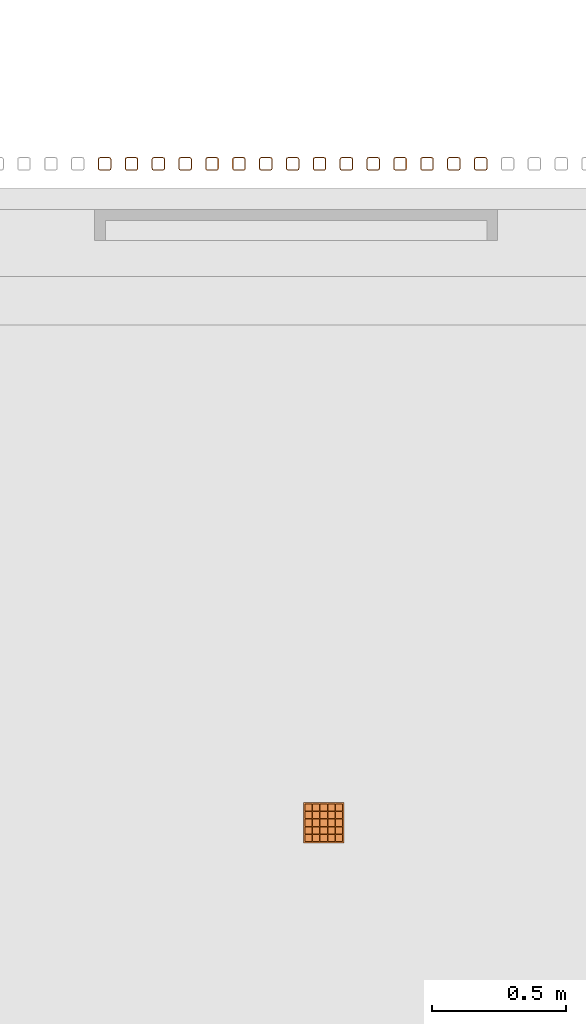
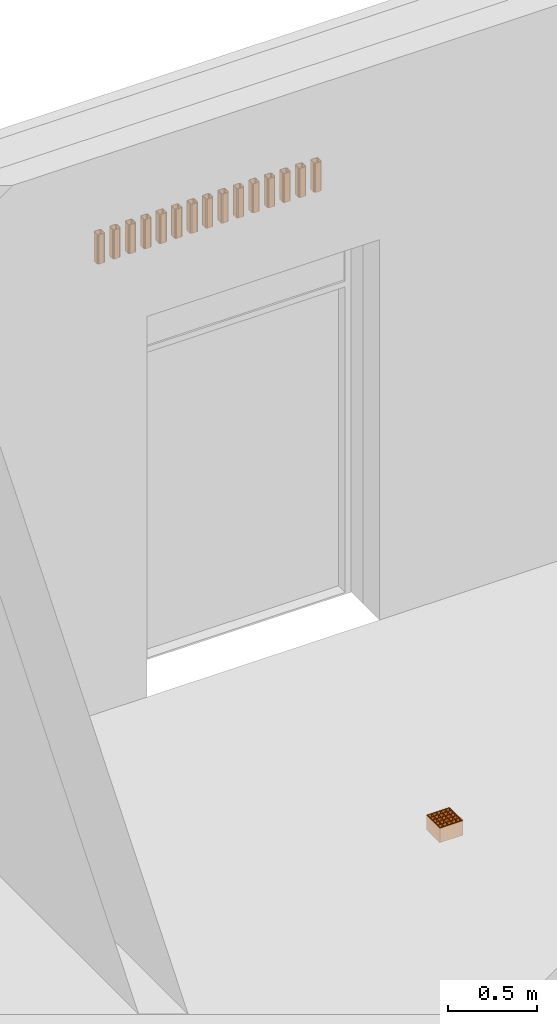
# One storey, part 102 of 112: 16 proxies.
"""IFC2X3 building model written with IfcOpenShell, lengths in millimetres."""

import ifcopenshell
import ifcopenshell.guid

model = None  # the IFC model being written
_history = None  # IfcOwnerHistory: only IFC2X3 demands one
_inside = {}  # id of a spatial element -> (the spatial element, [elements in it])
_under = {}  # id of a project, library or spatial element -> (it, [spatial elements below it])
_declared = {}  # id of a project -> (the project, [libraries it declares])
_typed = {}  # id of a type object -> (the type object, [elements of that type])
_made_of = {}  # id of a material, layer set ... -> (it, [elements and type objects made of it])


def new_model(schema):
    """Start an empty IFC model of exactly this schema.

    Asked for "IFC4X3", IfcOpenShell would pick the latest addendum, in which some entities
    have other attributes; the version numbers below select the first issue.
    IFC2X3 requires an IfcOwnerHistory on every rooted entity: one is made here for all.
    """
    global model, _history
    if schema == "IFC4X3":
        model = ifcopenshell.file(schema_version=(4, 3, 0, 0))
    else:
        model = ifcopenshell.file(schema=schema)
    _inside.clear()
    _under.clear()
    _declared.clear()
    _typed.clear()
    _made_of.clear()
    _history = None
    if model.schema == "IFC2X3":
        org = make("IfcOrganization", Name="unknown")
        user = make(
            "IfcPersonAndOrganization",
            ThePerson=make("IfcPerson", FamilyName="unknown"),
            TheOrganization=org,
        )
        app = make(
            "IfcApplication",
            ApplicationDeveloper=org,
            Version="unknown",
            ApplicationFullName="unknown",
            ApplicationIdentifier="unknown",
        )
        _history = make(
            "IfcOwnerHistory",
            OwningUser=user,
            OwningApplication=app,
            ChangeAction="ADDED",
            CreationDate=0,
        )
    return model


def make(cls, **values):
    """One entity of the class cls with the attributes given. An attribute that is None is left unset."""
    return model.create_entity(
        cls, **{name: value for name, value in values.items() if value is not None}
    )


def entity(cls, *values):
    """Any entity or typed value of the class cls, its attributes in the order of the schema. None: left unset."""
    e = model.create_entity(cls)
    for i, value in enumerate(values):
        if value is not None:
            e[i] = value
    return e


def rooted(cls, **values):
    """An entity with a GlobalId (a new one), such as an element, a storey or a relation."""
    return make(cls, GlobalId=ifcopenshell.guid.new(), OwnerHistory=_history, **values)


def si_unit(unit_type, name, prefix=None):
    """IfcSIUnit, for example si_unit("LENGTHUNIT", "METRE", prefix="MILLI")."""
    return make("IfcSIUnit", UnitType=unit_type, Prefix=prefix, Name=name)


def converted_unit(unit_type, name, factor, base, dimensions=None, offset=None):
    """IfcConversionBasedUnit, such as the inch: factor (a typed value) times the base unit."""
    return make(
        "IfcConversionBasedUnit"
        if offset is None
        else "IfcConversionBasedUnitWithOffset",
        ConversionOffset=offset,
        Dimensions=None
        if dimensions is None
        else entity("IfcDimensionalExponents", *dimensions),
        UnitType=unit_type,
        Name=name,
        ConversionFactor=make(
            "IfcMeasureWithUnit", ValueComponent=factor, UnitComponent=base
        ),
    )


def derived_unit(unit_type, elements):
    """IfcDerivedUnit: a product of units, each with its exponent."""
    return make(
        "IfcDerivedUnit",
        Elements=[
            make("IfcDerivedUnitElement", Unit=unit, Exponent=power)
            for unit, power in elements
        ],
        UnitType=unit_type,
    )


def money_unit(currency):
    """IfcMonetaryUnit."""
    return make("IfcMonetaryUnit", Currency=currency)


def assignment(units):
    """IfcUnitAssignment: the units of a project."""
    return None if units is None else make("IfcUnitAssignment", Units=units)


def point(xyz):
    """IfcCartesianPoint."""
    return None if xyz is None else make("IfcCartesianPoint", Coordinates=xyz)


def direction(xyz):
    """IfcDirection."""
    return None if xyz is None else make("IfcDirection", DirectionRatios=xyz)


def frame(location, z_axis=None, x_axis=None):
    """IfcAxis2Placement3D, a coordinate frame: its origin and axes. An axis left out is left unset."""
    return make(
        "IfcAxis2Placement3D",
        Location=point(location),
        Axis=direction(z_axis),
        RefDirection=direction(x_axis),
    )


def origin_with_axes():
    """The frame at (0, 0, 0) with the z axis (0, 0, 1) and the x axis (1, 0, 0) written out."""
    return frame((0.0, 0.0, 0.0), z_axis=(0.0, 0.0, 1.0), x_axis=(1.0, 0.0, 0.0))


def place(relative_to, where):
    """IfcLocalPlacement: puts the frame where relative to a parent placement (None: the world)."""
    return make(
        "IfcLocalPlacement", PlacementRelTo=relative_to, RelativePlacement=where
    )


def context(
    kind, dimensions, precision=None, world=None, true_north=None, identifier=None
):
    """IfcGeometricRepresentationContext, for example the 3D "Model" context."""
    return make(
        "IfcGeometricRepresentationContext",
        ContextIdentifier=identifier,
        ContextType=kind,
        CoordinateSpaceDimension=dimensions,
        Precision=precision,
        WorldCoordinateSystem=world,
        TrueNorth=true_north,
    )


def subcontext(parent, identifier, kind, view, scale=None):
    """IfcGeometricRepresentationSubContext, for example "Body" below "Model"."""
    return make(
        "IfcGeometricRepresentationSubContext",
        ContextIdentifier=identifier,
        ContextType=kind,
        ParentContext=parent,
        TargetScale=scale,
        TargetView=view,
    )


def project(units=None, contexts=None):
    """IfcProject with its units and contexts."""
    return rooted(
        "IfcProject",
        Name="project",
        RepresentationContexts=contexts,
        UnitsInContext=assignment(units),
    )


def spatial(cls, under=None, at=None, **own):
    """A site, building, storey or space (cls), placed at a placement, below another one or the project."""
    s = rooted(cls, ObjectPlacement=at, **own)
    if under is not None:
        _under.setdefault(under.id(), (under, []))[1].append(s)
    return s


def faces_of(points, faces, orient=None, outer=None):
    """IfcFace entities. A face is a list of loops; a loop is a list of indices into points, from 0.

    orient and outer hold one flag for each loop. By default every Orientation is true, the
    first loop of a face is its IfcFaceOuterBound and the others are IfcFaceBound.
    """
    made = []
    for i, loops in enumerate(faces):
        bounds = []
        for j, loop in enumerate(loops):
            is_outer = j == 0 if outer is None else outer[i][j]
            bounds.append(
                make(
                    "IfcFaceOuterBound" if is_outer else "IfcFaceBound",
                    Bound=make("IfcPolyLoop", Polygon=[points[k] for k in loop]),
                    Orientation=True if orient is None else orient[i][j],
                )
            )
        made.append(make("IfcFace", Bounds=bounds))
    return made


def faceted_brep(points, faces, orient=None, outer=None, voids=None):
    """IfcFacetedBrep: a solid bounded by flat faces; with voids (closed shells), ...WithVoids."""
    shared = [point(p) for p in points]
    hull = make("IfcClosedShell", CfsFaces=faces_of(shared, faces, orient, outer))
    if voids is None:
        return make("IfcFacetedBrep", Outer=hull)
    return make(
        "IfcFacetedBrepWithVoids",
        Outer=hull,
        Voids=[
            make(cls, CfsFaces=faces_of(shared, fs, o, b)) for cls, fs, o, b in voids
        ],
    )


def shape(context_of_items, identifier, shape_type, items):
    """IfcShapeRepresentation: the items that make up one representation, for example the "Body"."""
    return make(
        "IfcShapeRepresentation",
        ContextOfItems=context_of_items,
        RepresentationIdentifier=identifier,
        RepresentationType=shape_type,
        Items=items,
    )


def source(mapping_origin, context_of_items, identifier, shape_type, items):
    """IfcRepresentationMap: a shape defined once, which mapped items show again and again."""
    return make(
        "IfcRepresentationMap",
        MappingOrigin=mapping_origin,
        MappedRepresentation=shape(context_of_items, identifier, shape_type, items),
    )


def transform(
    local_origin,
    x_axis=None,
    y_axis=None,
    z_axis=None,
    scale=None,
    scale2=None,
    scale3=None,
    uniform=True,
):
    """IfcCartesianTransformationOperator3D, or its non-uniform kind. x_axis, y_axis, z_axis: its Axis1, 2, 3."""
    if uniform:
        return make(
            "IfcCartesianTransformationOperator3D",
            Axis1=direction(x_axis),
            Axis2=direction(y_axis),
            LocalOrigin=point(local_origin),
            Scale=scale,
            Axis3=direction(z_axis),
        )
    return make(
        "IfcCartesianTransformationOperator3DnonUniform",
        Axis1=direction(x_axis),
        Axis2=direction(y_axis),
        LocalOrigin=point(local_origin),
        Scale=scale,
        Axis3=direction(z_axis),
        Scale2=scale2,
        Scale3=scale3,
    )


def mapped(mapping_source, mapping_target):
    """IfcMappedItem: shows the shape of a source again, moved by a transform."""
    return make(
        "IfcMappedItem", MappingSource=mapping_source, MappingTarget=mapping_target
    )


def material(Name=None, Category=None):
    """IfcMaterial."""
    return make("IfcMaterial", Name=Name, Category=Category)


def made_of(thing, what):
    """Note that an element or type object is made of a material, layer set ...; save() writes the relation."""
    if what is not None:
        _made_of.setdefault(what.id(), (what, []))[1].append(thing)
    return thing


def type_object(cls, material=None, **own):
    """A type object (cls), such as IfcWallType, which elements share."""
    return made_of(rooted(cls, **own), material)


def element(
    cls,
    number,
    at=None,
    inside=None,
    cuts=None,
    type_object=None,
    material=None,
    context=None,
    identifier="Body",
    shape_type=None,
    held_by="IfcProductDefinitionShape",
    body=None,
    shapes=None,
    **own,
):
    """One element of the class cls, such as IfcWall. Its Tag is "e" and its number.

    at: its placement. inside: the storey or other place that contains it. cuts: it is an
    opening in that element (IfcRelVoidsElement). A single representation is given by context,
    identifier, shape_type and body (its items); several are given by shapes. held_by: the class
    of the entity that holds the representations. save() writes the other relations.
    """
    e = rooted(cls, Tag="e%d" % number, ObjectPlacement=at, **own)
    if body is not None:
        shapes = [shape(context, identifier, shape_type, body)]
    if shapes is not None:
        e.Representation = make(held_by, Representations=shapes)
    if inside is not None:
        _inside.setdefault(inside.id(), (inside, []))[1].append(e)
    if cuts is not None:
        rooted(
            "IfcRelVoidsElement", RelatingBuildingElement=cuts, RelatedOpeningElement=e
        )
    if type_object is not None:
        _typed.setdefault(type_object.id(), (type_object, []))[1].append(e)
    return made_of(e, material)


def aggregate(whole, parts):
    """IfcRelAggregates: a whole, such as a stair, and the parts it consists of."""
    return rooted("IfcRelAggregates", RelatingObject=whole, RelatedObjects=parts)


def save(model, path):
    """Write the relations noted so far, then the file.

    IfcRelAggregates (storeys below a building ...), IfcRelContainedInSpatialStructure (elements
    in a storey), IfcRelDefinesByType, IfcRelAssociatesMaterial and IfcRelDeclares: one each for
    every whole, place, type object, material and project.
    """
    for whole, parts in _under.values():
        aggregate(whole, parts)
    for where, things in _inside.values():
        rooted(
            "IfcRelContainedInSpatialStructure",
            RelatedElements=things,
            RelatingStructure=where,
        )
    for kind, things in _typed.values():
        rooted("IfcRelDefinesByType", RelatedObjects=things, RelatingType=kind)
    for what, things in _made_of.values():
        rooted("IfcRelAssociatesMaterial", RelatedObjects=things, RelatingMaterial=what)
    for by, libraries in _declared.values():
        rooted("IfcRelDeclares", RelatingContext=by, RelatedDefinitions=libraries)
    model.write(path)


model = new_model("IFC2X3")

# Units and contexts
model_context = context("Model", 3, precision=0.01, world=origin_with_axes(), true_north=direction((0.0, 1.0)))
body_context = subcontext(model_context, "Body", "Model", "MODEL_VIEW")
ifc_project = project(units=[si_unit("LENGTHUNIT", "METRE", prefix="MILLI"), si_unit("AREAUNIT", "SQUARE_METRE"), si_unit("VOLUMEUNIT", "CUBIC_METRE"), converted_unit("PLANEANGLEUNIT", "DEGREE", entity("IfcPlaneAngleMeasure", 0.0174532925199), si_unit("PLANEANGLEUNIT", "RADIAN"), dimensions=[0, 0, 0, 0, 0, 0, 0]), si_unit("SOLIDANGLEUNIT", "STERADIAN"), money_unit("EUR"), converted_unit("TIMEUNIT", "Year", entity("IfcTimeMeasure", 31556926.0), si_unit("TIMEUNIT", "SECOND"), dimensions=[0, 0, 1, 0, 0, 0, 0]), si_unit("MASSUNIT", "GRAM", prefix="KILO"), si_unit("THERMODYNAMICTEMPERATUREUNIT", "DEGREE_CELSIUS"), si_unit("LUMINOUSINTENSITYUNIT", "LUMEN"), si_unit("ENERGYUNIT", "JOULE", prefix="MEGA"), derived_unit("THERMALCONDUCTANCEUNIT", [(si_unit("POWERUNIT", "WATT"), 1), (si_unit("LENGTHUNIT", "METRE"), -1), (si_unit("THERMODYNAMICTEMPERATUREUNIT", "KELVIN"), -1)]), derived_unit("SPECIFICHEATCAPACITYUNIT", [(si_unit("ENERGYUNIT", "JOULE"), 1), (si_unit("MASSUNIT", "GRAM", prefix="KILO"), -1), (si_unit("THERMODYNAMICTEMPERATUREUNIT", "KELVIN"), -1)]), derived_unit("MASSDENSITYUNIT", [(si_unit("MASSUNIT", "GRAM", prefix="KILO"), 1), (si_unit("VOLUMEUNIT", "CUBIC_METRE"), -1)])], contexts=[model_context])

# Site, building, storey
site_placement = place(None, origin_with_axes())
site = spatial("IfcSite", under=ifc_project, at=site_placement, Name="Politse- ja Piirivalveameti ning Päästeameti ühishoone", CompositionType="ELEMENT")
building_placement = place(site_placement, origin_with_axes())
building = spatial("IfcBuilding", under=site, at=building_placement, Name="Politse- ja Piirivalveameti ning Päästeameti ühishoone", CompositionType="ELEMENT")
storey_placement = place(building_placement, origin_with_axes())
storey = spatial("IfcBuildingStorey", under=building, at=storey_placement, Name="Esimene korrus", CompositionType="ELEMENT", Elevation=0.0)

# Proxies
building_element_proxy_type_1 = type_object("IfcBuildingElementProxyType", Name="Grid 23", PredefinedType="NOTDEFINED")
shared_shape_1 = source(origin_with_axes(), body_context, "Body", "Brep", [
    faceted_brep([(0.0, 0.0, 0.0), (5.0, 5.0, 0.0), (5.0, 5.0, 100.0), (0.0, 0.0, 100.0), (0.0, 150.0, 0.0), (5.0, 145.0, 0.0), (5.0, 119.5, 0.0), (5.0, 117.5, 0.0), (5.0, 90.5, 0.0), (5.0, 88.5, 0.0), (5.0, 61.5, 0.0), (5.0, 59.5, 0.0), (5.0, 32.5, 0.0), (5.0, 30.5, 0.0), (5.0, 30.5, 100.0), (5.0, 32.5, 100.0), (5.0, 59.5, 100.0), (5.0, 61.5, 100.0), (5.0, 88.5, 100.0), (5.0, 90.5, 100.0), (5.0, 117.5, 100.0), (5.0, 119.5, 100.0), (5.0, 145.0, 100.0), (0.0, 150.0, 100.0)], [[[0, 1, 2, 3]], [[0, 4, 5, 6, 7, 8, 9, 10, 11, 12, 13, 1]], [[1, 13, 14, 2]], [[3, 2, 14, 15, 16, 17, 18, 19, 20, 21, 22, 23]], [[4, 0, 3, 23]], [[5, 4, 23, 22]], [[6, 5, 22, 21]], [[7, 6, 21, 20]], [[8, 7, 20, 19]], [[9, 8, 19, 18]], [[10, 9, 18, 17]], [[11, 10, 17, 16]], [[12, 11, 16, 15]], [[13, 12, 15, 14]]]),
    faceted_brep([(150.0, 150.0, 0.0), (145.0, 145.0, 0.0), (145.0, 145.0, 100.0), (150.0, 150.0, 100.0), (150.0, 0.0, 0.0), (145.0, 5.0, 0.0), (145.0, 30.5, 0.0), (145.0, 32.5, 0.0), (145.0, 59.5, 0.0), (145.0, 61.5, 0.0), (145.0, 88.5, 0.0), (145.0, 90.5, 0.0), (145.0, 117.5, 0.0), (145.0, 119.5, 0.0), (145.0, 119.5, 100.0), (145.0, 117.5, 100.0), (145.0, 90.5, 100.0), (145.0, 88.5, 100.0), (145.0, 61.5, 100.0), (145.0, 59.5, 100.0), (145.0, 32.5, 100.0), (145.0, 30.5, 100.0), (145.0, 5.0, 100.0), (150.0, 0.0, 100.0)], [[[0, 1, 2, 3]], [[0, 4, 5, 6, 7, 8, 9, 10, 11, 12, 13, 1]], [[1, 13, 14, 2]], [[3, 2, 14, 15, 16, 17, 18, 19, 20, 21, 22, 23]], [[4, 0, 3, 23]], [[5, 4, 23, 22]], [[6, 5, 22, 21]], [[7, 6, 21, 20]], [[8, 7, 20, 19]], [[9, 8, 19, 18]], [[10, 9, 18, 17]], [[11, 10, 17, 16]], [[12, 11, 16, 15]], [[13, 12, 15, 14]]]),
    faceted_brep([(150.0, 0.0, 0.0), (145.0, 5.0, 0.0), (145.0, 5.0, 100.0), (150.0, 0.0, 100.0), (0.0, 0.0, 0.0), (5.0, 5.0, 0.0), (30.5, 5.0, 0.0), (32.5, 5.0, 0.0), (59.5, 5.0, 0.0), (61.5, 5.0, 0.0), (88.5, 5.0, 0.0), (90.5, 5.0, 0.0), (117.5, 5.0, 0.0), (119.5, 5.0, 0.0), (119.5, 5.0, 100.0), (117.5, 5.0, 100.0), (90.5, 5.0, 100.0), (88.5, 5.0, 100.0), (61.5, 5.0, 100.0), (59.5, 5.0, 100.0), (32.5, 5.0, 100.0), (30.5, 5.0, 100.0), (5.0, 5.0, 100.0), (0.0, 0.0, 100.0)], [[[0, 1, 2, 3]], [[0, 4, 5, 6, 7, 8, 9, 10, 11, 12, 13, 1]], [[1, 13, 14, 2]], [[3, 2, 14, 15, 16, 17, 18, 19, 20, 21, 22, 23]], [[4, 0, 3, 23]], [[5, 4, 23, 22]], [[6, 5, 22, 21]], [[7, 6, 21, 20]], [[8, 7, 20, 19]], [[9, 8, 19, 18]], [[10, 9, 18, 17]], [[11, 10, 17, 16]], [[12, 11, 16, 15]], [[13, 12, 15, 14]]]),
    faceted_brep([(0.0, 150.0, 0.0), (5.0, 145.0, 0.0), (5.0, 145.0, 100.0), (0.0, 150.0, 100.0), (150.0, 150.0, 0.0), (145.0, 145.0, 0.0), (119.5, 145.0, 0.0), (117.5, 145.0, 0.0), (90.5, 145.0, 0.0), (88.5, 145.0, 0.0), (61.5, 145.0, 0.0), (59.5, 145.0, 0.0), (32.5, 145.0, 0.0), (30.5, 145.0, 0.0), (30.5, 145.0, 100.0), (32.5, 145.0, 100.0), (59.5, 145.0, 100.0), (61.5, 145.0, 100.0), (88.5, 145.0, 100.0), (90.5, 145.0, 100.0), (117.5, 145.0, 100.0), (119.5, 145.0, 100.0), (145.0, 145.0, 100.0), (150.0, 150.0, 100.0)], [[[0, 1, 2, 3]], [[0, 4, 5, 6, 7, 8, 9, 10, 11, 12, 13, 1]], [[1, 13, 14, 2]], [[3, 2, 14, 15, 16, 17, 18, 19, 20, 21, 22, 23]], [[4, 0, 3, 23]], [[5, 4, 23, 22]], [[6, 5, 22, 21]], [[7, 6, 21, 20]], [[8, 7, 20, 19]], [[9, 8, 19, 18]], [[10, 9, 18, 17]], [[11, 10, 17, 16]], [[12, 11, 16, 15]], [[13, 12, 15, 14]]]),
    faceted_brep([(30.5, 5.0, 0.0), (32.5, 5.0, 0.0), (32.5, 5.0, 100.0), (30.5, 5.0, 100.0), (30.5, 30.5, 0.0), (30.5, 32.5, 0.0), (30.5, 59.5, 0.0), (30.5, 61.5, 0.0), (30.5, 88.5, 0.0), (30.5, 90.5, 0.0), (30.5, 117.5, 0.0), (30.5, 119.5, 0.0), (30.5, 145.0, 0.0), (32.5, 145.0, 0.0), (32.5, 119.5, 0.0), (32.5, 117.5, 0.0), (32.5, 90.5, 0.0), (32.5, 88.5, 0.0), (32.5, 61.5, 0.0), (32.5, 59.5, 0.0), (32.5, 32.5, 0.0), (32.5, 30.5, 0.0), (32.5, 30.5, 100.0), (32.5, 32.5, 100.0), (32.5, 59.5, 100.0), (32.5, 61.5, 100.0), (32.5, 88.5, 100.0), (32.5, 90.5, 100.0), (32.5, 117.5, 100.0), (32.5, 119.5, 100.0), (32.5, 145.0, 100.0), (30.5, 145.0, 100.0), (30.5, 119.5, 100.0), (30.5, 117.5, 100.0), (30.5, 90.5, 100.0), (30.5, 88.5, 100.0), (30.5, 61.5, 100.0), (30.5, 59.5, 100.0), (30.5, 32.5, 100.0), (30.5, 30.5, 100.0)], [[[0, 1, 2, 3]], [[0, 4, 5, 6, 7, 8, 9, 10, 11, 12, 13, 14, 15, 16, 17, 18, 19, 20, 21, 1]], [[1, 21, 22, 2]], [[3, 2, 22, 23, 24, 25, 26, 27, 28, 29, 30, 31, 32, 33, 34, 35, 36, 37, 38, 39]], [[4, 0, 3, 39]], [[5, 4, 39, 38]], [[6, 5, 38, 37]], [[7, 6, 37, 36]], [[8, 7, 36, 35]], [[9, 8, 35, 34]], [[10, 9, 34, 33]], [[11, 10, 33, 32]], [[12, 11, 32, 31]], [[13, 12, 31, 30]], [[14, 13, 30, 29]], [[15, 14, 29, 28]], [[16, 15, 28, 27]], [[17, 16, 27, 26]], [[18, 17, 26, 25]], [[19, 18, 25, 24]], [[20, 19, 24, 23]], [[21, 20, 23, 22]]]),
    faceted_brep([(59.5, 5.0, 0.0), (61.5, 5.0, 0.0), (61.5, 5.0, 100.0), (59.5, 5.0, 100.0), (59.5, 30.5, 0.0), (59.5, 32.5, 0.0), (59.5, 59.5, 0.0), (59.5, 61.5, 0.0), (59.5, 88.5, 0.0), (59.5, 90.5, 0.0), (59.5, 117.5, 0.0), (59.5, 119.5, 0.0), (59.5, 145.0, 0.0), (61.5, 145.0, 0.0), (61.5, 119.5, 0.0), (61.5, 117.5, 0.0), (61.5, 90.5, 0.0), (61.5, 88.5, 0.0), (61.5, 61.5, 0.0), (61.5, 59.5, 0.0), (61.5, 32.5, 0.0), (61.5, 30.5, 0.0), (61.5, 30.5, 100.0), (61.5, 32.5, 100.0), (61.5, 59.5, 100.0), (61.5, 61.5, 100.0), (61.5, 88.5, 100.0), (61.5, 90.5, 100.0), (61.5, 117.5, 100.0), (61.5, 119.5, 100.0), (61.5, 145.0, 100.0), (59.5, 145.0, 100.0), (59.5, 119.5, 100.0), (59.5, 117.5, 100.0), (59.5, 90.5, 100.0), (59.5, 88.5, 100.0), (59.5, 61.5, 100.0), (59.5, 59.5, 100.0), (59.5, 32.5, 100.0), (59.5, 30.5, 100.0)], [[[0, 1, 2, 3]], [[0, 4, 5, 6, 7, 8, 9, 10, 11, 12, 13, 14, 15, 16, 17, 18, 19, 20, 21, 1]], [[1, 21, 22, 2]], [[3, 2, 22, 23, 24, 25, 26, 27, 28, 29, 30, 31, 32, 33, 34, 35, 36, 37, 38, 39]], [[4, 0, 3, 39]], [[5, 4, 39, 38]], [[6, 5, 38, 37]], [[7, 6, 37, 36]], [[8, 7, 36, 35]], [[9, 8, 35, 34]], [[10, 9, 34, 33]], [[11, 10, 33, 32]], [[12, 11, 32, 31]], [[13, 12, 31, 30]], [[14, 13, 30, 29]], [[15, 14, 29, 28]], [[16, 15, 28, 27]], [[17, 16, 27, 26]], [[18, 17, 26, 25]], [[19, 18, 25, 24]], [[20, 19, 24, 23]], [[21, 20, 23, 22]]]),
    faceted_brep([(88.5, 5.0, 0.0), (90.5, 5.0, 0.0), (90.5, 5.0, 100.0), (88.5, 5.0, 100.0), (88.5, 30.5, 0.0), (88.5, 32.5, 0.0), (88.5, 59.5, 0.0), (88.5, 61.5, 0.0), (88.5, 88.5, 0.0), (88.5, 90.5, 0.0), (88.5, 117.5, 0.0), (88.5, 119.5, 0.0), (88.5, 145.0, 0.0), (90.5, 145.0, 0.0), (90.5, 119.5, 0.0), (90.5, 117.5, 0.0), (90.5, 90.5, 0.0), (90.5, 88.5, 0.0), (90.5, 61.5, 0.0), (90.5, 59.5, 0.0), (90.5, 32.5, 0.0), (90.5, 30.5, 0.0), (90.5, 30.5, 100.0), (90.5, 32.5, 100.0), (90.5, 59.5, 100.0), (90.5, 61.5, 100.0), (90.5, 88.5, 100.0), (90.5, 90.5, 100.0), (90.5, 117.5, 100.0), (90.5, 119.5, 100.0), (90.5, 145.0, 100.0), (88.5, 145.0, 100.0), (88.5, 119.5, 100.0), (88.5, 117.5, 100.0), (88.5, 90.5, 100.0), (88.5, 88.5, 100.0), (88.5, 61.5, 100.0), (88.5, 59.5, 100.0), (88.5, 32.5, 100.0), (88.5, 30.5, 100.0)], [[[0, 1, 2, 3]], [[0, 4, 5, 6, 7, 8, 9, 10, 11, 12, 13, 14, 15, 16, 17, 18, 19, 20, 21, 1]], [[1, 21, 22, 2]], [[3, 2, 22, 23, 24, 25, 26, 27, 28, 29, 30, 31, 32, 33, 34, 35, 36, 37, 38, 39]], [[4, 0, 3, 39]], [[5, 4, 39, 38]], [[6, 5, 38, 37]], [[7, 6, 37, 36]], [[8, 7, 36, 35]], [[9, 8, 35, 34]], [[10, 9, 34, 33]], [[11, 10, 33, 32]], [[12, 11, 32, 31]], [[13, 12, 31, 30]], [[14, 13, 30, 29]], [[15, 14, 29, 28]], [[16, 15, 28, 27]], [[17, 16, 27, 26]], [[18, 17, 26, 25]], [[19, 18, 25, 24]], [[20, 19, 24, 23]], [[21, 20, 23, 22]]]),
    faceted_brep([(117.5, 5.0, 0.0), (119.5, 5.0, 0.0), (119.5, 5.0, 100.0), (117.5, 5.0, 100.0), (117.5, 30.5, 0.0), (117.5, 32.5, 0.0), (117.5, 59.5, 0.0), (117.5, 61.5, 0.0), (117.5, 88.5, 0.0), (117.5, 90.5, 0.0), (117.5, 117.5, 0.0), (117.5, 119.5, 0.0), (117.5, 145.0, 0.0), (119.5, 145.0, 0.0), (119.5, 119.5, 0.0), (119.5, 117.5, 0.0), (119.5, 90.5, 0.0), (119.5, 88.5, 0.0), (119.5, 61.5, 0.0), (119.5, 59.5, 0.0), (119.5, 32.5, 0.0), (119.5, 30.5, 0.0), (119.5, 30.5, 100.0), (119.5, 32.5, 100.0), (119.5, 59.5, 100.0), (119.5, 61.5, 100.0), (119.5, 88.5, 100.0), (119.5, 90.5, 100.0), (119.5, 117.5, 100.0), (119.5, 119.5, 100.0), (119.5, 145.0, 100.0), (117.5, 145.0, 100.0), (117.5, 119.5, 100.0), (117.5, 117.5, 100.0), (117.5, 90.5, 100.0), (117.5, 88.5, 100.0), (117.5, 61.5, 100.0), (117.5, 59.5, 100.0), (117.5, 32.5, 100.0), (117.5, 30.5, 100.0)], [[[0, 1, 2, 3]], [[0, 4, 5, 6, 7, 8, 9, 10, 11, 12, 13, 14, 15, 16, 17, 18, 19, 20, 21, 1]], [[1, 21, 22, 2]], [[3, 2, 22, 23, 24, 25, 26, 27, 28, 29, 30, 31, 32, 33, 34, 35, 36, 37, 38, 39]], [[4, 0, 3, 39]], [[5, 4, 39, 38]], [[6, 5, 38, 37]], [[7, 6, 37, 36]], [[8, 7, 36, 35]], [[9, 8, 35, 34]], [[10, 9, 34, 33]], [[11, 10, 33, 32]], [[12, 11, 32, 31]], [[13, 12, 31, 30]], [[14, 13, 30, 29]], [[15, 14, 29, 28]], [[16, 15, 28, 27]], [[17, 16, 27, 26]], [[18, 17, 26, 25]], [[19, 18, 25, 24]], [[20, 19, 24, 23]], [[21, 20, 23, 22]]]),
    faceted_brep([(30.5, 30.5, 0.0), (30.5, 32.5, 0.0), (30.5, 32.5, 100.0), (30.5, 30.5, 100.0), (5.0, 30.5, 0.0), (5.0, 32.5, 0.0), (5.0, 32.5, 100.0), (5.0, 30.5, 100.0)], [[[0, 1, 2, 3]], [[0, 4, 5, 1]], [[1, 5, 6, 2]], [[3, 2, 6, 7]], [[4, 0, 3, 7]], [[5, 4, 7, 6]]]),
    faceted_brep([(30.5, 59.5, 0.0), (30.5, 61.5, 0.0), (30.5, 61.5, 100.0), (30.5, 59.5, 100.0), (5.0, 59.5, 0.0), (5.0, 61.5, 0.0), (5.0, 61.5, 100.0), (5.0, 59.5, 100.0)], [[[0, 1, 2, 3]], [[0, 4, 5, 1]], [[1, 5, 6, 2]], [[3, 2, 6, 7]], [[4, 0, 3, 7]], [[5, 4, 7, 6]]]),
    faceted_brep([(30.5, 88.5, 0.0), (30.5, 90.5, 0.0), (30.5, 90.5, 100.0), (30.5, 88.5, 100.0), (5.0, 88.5, 0.0), (5.0, 90.5, 0.0), (5.0, 90.5, 100.0), (5.0, 88.5, 100.0)], [[[0, 1, 2, 3]], [[0, 4, 5, 1]], [[1, 5, 6, 2]], [[3, 2, 6, 7]], [[4, 0, 3, 7]], [[5, 4, 7, 6]]]),
    faceted_brep([(30.5, 117.5, 0.0), (30.5, 119.5, 0.0), (30.5, 119.5, 100.0), (30.5, 117.5, 100.0), (5.0, 117.5, 0.0), (5.0, 119.5, 0.0), (5.0, 119.5, 100.0), (5.0, 117.5, 100.0)], [[[0, 1, 2, 3]], [[0, 4, 5, 1]], [[1, 5, 6, 2]], [[3, 2, 6, 7]], [[4, 0, 3, 7]], [[5, 4, 7, 6]]]),
    faceted_brep([(59.5, 30.5, 0.0), (59.5, 32.5, 0.0), (59.5, 32.5, 100.0), (59.5, 30.5, 100.0), (32.5, 30.5, 0.0), (32.5, 32.5, 0.0), (32.5, 32.5, 100.0), (32.5, 30.5, 100.0)], [[[0, 1, 2, 3]], [[0, 4, 5, 1]], [[1, 5, 6, 2]], [[3, 2, 6, 7]], [[4, 0, 3, 7]], [[5, 4, 7, 6]]]),
    faceted_brep([(59.5, 59.5, 0.0), (59.5, 61.5, 0.0), (59.5, 61.5, 100.0), (59.5, 59.5, 100.0), (32.5, 59.5, 0.0), (32.5, 61.5, 0.0), (32.5, 61.5, 100.0), (32.5, 59.5, 100.0)], [[[0, 1, 2, 3]], [[0, 4, 5, 1]], [[1, 5, 6, 2]], [[3, 2, 6, 7]], [[4, 0, 3, 7]], [[5, 4, 7, 6]]]),
    faceted_brep([(59.5, 88.5, 0.0), (59.5, 90.5, 0.0), (59.5, 90.5, 100.0), (59.5, 88.5, 100.0), (32.5, 88.5, 0.0), (32.5, 90.5, 0.0), (32.5, 90.5, 100.0), (32.5, 88.5, 100.0)], [[[0, 1, 2, 3]], [[0, 4, 5, 1]], [[1, 5, 6, 2]], [[3, 2, 6, 7]], [[4, 0, 3, 7]], [[5, 4, 7, 6]]]),
    faceted_brep([(59.5, 117.5, 0.0), (59.5, 119.5, 0.0), (59.5, 119.5, 100.0), (59.5, 117.5, 100.0), (32.5, 117.5, 0.0), (32.5, 119.5, 0.0), (32.5, 119.5, 100.0), (32.5, 117.5, 100.0)], [[[0, 1, 2, 3]], [[0, 4, 5, 1]], [[1, 5, 6, 2]], [[3, 2, 6, 7]], [[4, 0, 3, 7]], [[5, 4, 7, 6]]]),
    faceted_brep([(88.5, 30.5, 0.0), (88.5, 32.5, 0.0), (88.5, 32.5, 100.0), (88.5, 30.5, 100.0), (61.5, 30.5, 0.0), (61.5, 32.5, 0.0), (61.5, 32.5, 100.0), (61.5, 30.5, 100.0)], [[[0, 1, 2, 3]], [[0, 4, 5, 1]], [[1, 5, 6, 2]], [[3, 2, 6, 7]], [[4, 0, 3, 7]], [[5, 4, 7, 6]]]),
    faceted_brep([(88.5, 59.5, 0.0), (88.5, 61.5, 0.0), (88.5, 61.5, 100.0), (88.5, 59.5, 100.0), (61.5, 59.5, 0.0), (61.5, 61.5, 0.0), (61.5, 61.5, 100.0), (61.5, 59.5, 100.0)], [[[0, 1, 2, 3]], [[0, 4, 5, 1]], [[1, 5, 6, 2]], [[3, 2, 6, 7]], [[4, 0, 3, 7]], [[5, 4, 7, 6]]]),
    faceted_brep([(88.5, 88.5, 0.0), (88.5, 90.5, 0.0), (88.5, 90.5, 100.0), (88.5, 88.5, 100.0), (61.5, 88.5, 0.0), (61.5, 90.5, 0.0), (61.5, 90.5, 100.0), (61.5, 88.5, 100.0)], [[[0, 1, 2, 3]], [[0, 4, 5, 1]], [[1, 5, 6, 2]], [[3, 2, 6, 7]], [[4, 0, 3, 7]], [[5, 4, 7, 6]]]),
    faceted_brep([(88.5, 117.5, 0.0), (88.5, 119.5, 0.0), (88.5, 119.5, 100.0), (88.5, 117.5, 100.0), (61.5, 117.5, 0.0), (61.5, 119.5, 0.0), (61.5, 119.5, 100.0), (61.5, 117.5, 100.0)], [[[0, 1, 2, 3]], [[0, 4, 5, 1]], [[1, 5, 6, 2]], [[3, 2, 6, 7]], [[4, 0, 3, 7]], [[5, 4, 7, 6]]]),
    faceted_brep([(117.5, 30.5, 0.0), (117.5, 32.5, 0.0), (117.5, 32.5, 100.0), (117.5, 30.5, 100.0), (90.5, 30.5, 0.0), (90.5, 32.5, 0.0), (90.5, 32.5, 100.0), (90.5, 30.5, 100.0)], [[[0, 1, 2, 3]], [[0, 4, 5, 1]], [[1, 5, 6, 2]], [[3, 2, 6, 7]], [[4, 0, 3, 7]], [[5, 4, 7, 6]]]),
    faceted_brep([(117.5, 59.5, 0.0), (117.5, 61.5, 0.0), (117.5, 61.5, 100.0), (117.5, 59.5, 100.0), (90.5, 59.5, 0.0), (90.5, 61.5, 0.0), (90.5, 61.5, 100.0), (90.5, 59.5, 100.0)], [[[0, 1, 2, 3]], [[0, 4, 5, 1]], [[1, 5, 6, 2]], [[3, 2, 6, 7]], [[4, 0, 3, 7]], [[5, 4, 7, 6]]]),
    faceted_brep([(117.5, 88.5, 0.0), (117.5, 90.5, 0.0), (117.5, 90.5, 100.0), (117.5, 88.5, 100.0), (90.5, 88.5, 0.0), (90.5, 90.5, 0.0), (90.5, 90.5, 100.0), (90.5, 88.5, 100.0)], [[[0, 1, 2, 3]], [[0, 4, 5, 1]], [[1, 5, 6, 2]], [[3, 2, 6, 7]], [[4, 0, 3, 7]], [[5, 4, 7, 6]]]),
    faceted_brep([(117.5, 117.5, 0.0), (117.5, 119.5, 0.0), (117.5, 119.5, 100.0), (117.5, 117.5, 100.0), (90.5, 117.5, 0.0), (90.5, 119.5, 0.0), (90.5, 119.5, 100.0), (90.5, 117.5, 100.0)], [[[0, 1, 2, 3]], [[0, 4, 5, 1]], [[1, 5, 6, 2]], [[3, 2, 6, 7]], [[4, 0, 3, 7]], [[5, 4, 7, 6]]]),
    faceted_brep([(145.0, 30.5, 0.0), (145.0, 32.5, 0.0), (145.0, 32.5, 100.0), (145.0, 30.5, 100.0), (119.5, 30.5, 0.0), (119.5, 32.5, 0.0), (119.5, 32.5, 100.0), (119.5, 30.5, 100.0)], [[[0, 1, 2, 3]], [[0, 4, 5, 1]], [[1, 5, 6, 2]], [[3, 2, 6, 7]], [[4, 0, 3, 7]], [[5, 4, 7, 6]]]),
    faceted_brep([(145.0, 59.5, 0.0), (145.0, 61.5, 0.0), (145.0, 61.5, 100.0), (145.0, 59.5, 100.0), (119.5, 59.5, 0.0), (119.5, 61.5, 0.0), (119.5, 61.5, 100.0), (119.5, 59.5, 100.0)], [[[0, 1, 2, 3]], [[0, 4, 5, 1]], [[1, 5, 6, 2]], [[3, 2, 6, 7]], [[4, 0, 3, 7]], [[5, 4, 7, 6]]]),
    faceted_brep([(145.0, 88.5, 0.0), (145.0, 90.5, 0.0), (145.0, 90.5, 100.0), (145.0, 88.5, 100.0), (119.5, 88.5, 0.0), (119.5, 90.5, 0.0), (119.5, 90.5, 100.0), (119.5, 88.5, 100.0)], [[[0, 1, 2, 3]], [[0, 4, 5, 1]], [[1, 5, 6, 2]], [[3, 2, 6, 7]], [[4, 0, 3, 7]], [[5, 4, 7, 6]]]),
    faceted_brep([(145.0, 117.5, 0.0), (145.0, 119.5, 0.0), (145.0, 119.5, 100.0), (145.0, 117.5, 100.0), (119.5, 117.5, 0.0), (119.5, 119.5, 0.0), (119.5, 119.5, 100.0), (119.5, 117.5, 100.0)], [[[0, 1, 2, 3]], [[0, 4, 5, 1]], [[1, 5, 6, 2]], [[3, 2, 6, 7]], [[4, 0, 3, 7]], [[5, 4, 7, 6]]]),
    faceted_brep([(5.0, 5.0, 43.65), (30.5, 5.0, 43.65), (30.5, 5.0, 56.35), (5.0, 5.0, 56.35), (5.0, 30.5, 43.65), (30.5, 30.5, 43.65), (30.5, 30.5, 56.35), (5.0, 30.5, 56.35)], [[[0, 1, 2, 3]], [[0, 4, 5, 1]], [[1, 5, 6, 2]], [[3, 2, 6, 7]], [[4, 0, 3, 7]], [[5, 4, 7, 6]]]),
    faceted_brep([(5.0, 32.5, 43.65), (30.5, 32.5, 43.65), (30.5, 32.5, 56.35), (5.0, 32.5, 56.35), (5.0, 59.5, 43.65), (30.5, 59.5, 43.65), (30.5, 59.5, 56.35), (5.0, 59.5, 56.35)], [[[0, 1, 2, 3]], [[0, 4, 5, 1]], [[1, 5, 6, 2]], [[3, 2, 6, 7]], [[4, 0, 3, 7]], [[5, 4, 7, 6]]]),
    faceted_brep([(5.0, 61.5, 43.65), (30.5, 61.5, 43.65), (30.5, 61.5, 56.35), (5.0, 61.5, 56.35), (5.0, 88.5, 43.65), (30.5, 88.5, 43.65), (30.5, 88.5, 56.35), (5.0, 88.5, 56.35)], [[[0, 1, 2, 3]], [[0, 4, 5, 1]], [[1, 5, 6, 2]], [[3, 2, 6, 7]], [[4, 0, 3, 7]], [[5, 4, 7, 6]]]),
    faceted_brep([(5.0, 90.5, 43.65), (30.5, 90.5, 43.65), (30.5, 90.5, 56.35), (5.0, 90.5, 56.35), (5.0, 117.5, 43.65), (30.5, 117.5, 43.65), (30.5, 117.5, 56.35), (5.0, 117.5, 56.35)], [[[0, 1, 2, 3]], [[0, 4, 5, 1]], [[1, 5, 6, 2]], [[3, 2, 6, 7]], [[4, 0, 3, 7]], [[5, 4, 7, 6]]]),
    faceted_brep([(5.0, 119.5, 43.65), (30.5, 119.5, 43.65), (30.5, 119.5, 56.35), (5.0, 119.5, 56.35), (5.0, 145.0, 43.65), (30.5, 145.0, 43.65), (30.5, 145.0, 56.35), (5.0, 145.0, 56.35)], [[[0, 1, 2, 3]], [[0, 4, 5, 1]], [[1, 5, 6, 2]], [[3, 2, 6, 7]], [[4, 0, 3, 7]], [[5, 4, 7, 6]]]),
    faceted_brep([(32.5, 5.0, 43.65), (59.5, 5.0, 43.65), (59.5, 5.0, 56.35), (32.5, 5.0, 56.35), (32.5, 30.5, 43.65), (59.5, 30.5, 43.65), (59.5, 30.5, 56.35), (32.5, 30.5, 56.35)], [[[0, 1, 2, 3]], [[0, 4, 5, 1]], [[1, 5, 6, 2]], [[3, 2, 6, 7]], [[4, 0, 3, 7]], [[5, 4, 7, 6]]]),
    faceted_brep([(32.5, 32.5, 43.65), (59.5, 32.5, 43.65), (59.5, 32.5, 56.35), (32.5, 32.5, 56.35), (32.5, 59.5, 43.65), (59.5, 59.5, 43.65), (59.5, 59.5, 56.35), (32.5, 59.5, 56.35)], [[[0, 1, 2, 3]], [[0, 4, 5, 1]], [[1, 5, 6, 2]], [[3, 2, 6, 7]], [[4, 0, 3, 7]], [[5, 4, 7, 6]]]),
    faceted_brep([(32.5, 61.5, 43.65), (59.5, 61.5, 43.65), (59.5, 61.5, 56.35), (32.5, 61.5, 56.35), (32.5, 88.5, 43.65), (59.5, 88.5, 43.65), (59.5, 88.5, 56.35), (32.5, 88.5, 56.35)], [[[0, 1, 2, 3]], [[0, 4, 5, 1]], [[1, 5, 6, 2]], [[3, 2, 6, 7]], [[4, 0, 3, 7]], [[5, 4, 7, 6]]]),
    faceted_brep([(32.5, 90.5, 43.65), (59.5, 90.5, 43.65), (59.5, 90.5, 56.35), (32.5, 90.5, 56.35), (32.5, 117.5, 43.65), (59.5, 117.5, 43.65), (59.5, 117.5, 56.35), (32.5, 117.5, 56.35)], [[[0, 1, 2, 3]], [[0, 4, 5, 1]], [[1, 5, 6, 2]], [[3, 2, 6, 7]], [[4, 0, 3, 7]], [[5, 4, 7, 6]]]),
    faceted_brep([(32.5, 119.5, 43.65), (59.5, 119.5, 43.65), (59.5, 119.5, 56.35), (32.5, 119.5, 56.35), (32.5, 145.0, 43.65), (59.5, 145.0, 43.65), (59.5, 145.0, 56.35), (32.5, 145.0, 56.35)], [[[0, 1, 2, 3]], [[0, 4, 5, 1]], [[1, 5, 6, 2]], [[3, 2, 6, 7]], [[4, 0, 3, 7]], [[5, 4, 7, 6]]]),
    faceted_brep([(61.5, 5.0, 43.65), (88.5, 5.0, 43.65), (88.5, 5.0, 56.35), (61.5, 5.0, 56.35), (61.5, 30.5, 43.65), (88.5, 30.5, 43.65), (88.5, 30.5, 56.35), (61.5, 30.5, 56.35)], [[[0, 1, 2, 3]], [[0, 4, 5, 1]], [[1, 5, 6, 2]], [[3, 2, 6, 7]], [[4, 0, 3, 7]], [[5, 4, 7, 6]]]),
    faceted_brep([(61.5, 32.5, 43.65), (88.5, 32.5, 43.65), (88.5, 32.5, 56.35), (61.5, 32.5, 56.35), (61.5, 59.5, 43.65), (88.5, 59.5, 43.65), (88.5, 59.5, 56.35), (61.5, 59.5, 56.35)], [[[0, 1, 2, 3]], [[0, 4, 5, 1]], [[1, 5, 6, 2]], [[3, 2, 6, 7]], [[4, 0, 3, 7]], [[5, 4, 7, 6]]]),
    faceted_brep([(61.5, 61.5, 43.65), (88.5, 61.5, 43.65), (88.5, 61.5, 56.35), (61.5, 61.5, 56.35), (61.5, 88.5, 43.65), (88.5, 88.5, 43.65), (88.5, 88.5, 56.35), (61.5, 88.5, 56.35)], [[[0, 1, 2, 3]], [[0, 4, 5, 1]], [[1, 5, 6, 2]], [[3, 2, 6, 7]], [[4, 0, 3, 7]], [[5, 4, 7, 6]]]),
    faceted_brep([(61.5, 90.5, 43.65), (88.5, 90.5, 43.65), (88.5, 90.5, 56.35), (61.5, 90.5, 56.35), (61.5, 117.5, 43.65), (88.5, 117.5, 43.65), (88.5, 117.5, 56.35), (61.5, 117.5, 56.35)], [[[0, 1, 2, 3]], [[0, 4, 5, 1]], [[1, 5, 6, 2]], [[3, 2, 6, 7]], [[4, 0, 3, 7]], [[5, 4, 7, 6]]]),
    faceted_brep([(61.5, 119.5, 43.65), (88.5, 119.5, 43.65), (88.5, 119.5, 56.35), (61.5, 119.5, 56.35), (61.5, 145.0, 43.65), (88.5, 145.0, 43.65), (88.5, 145.0, 56.35), (61.5, 145.0, 56.35)], [[[0, 1, 2, 3]], [[0, 4, 5, 1]], [[1, 5, 6, 2]], [[3, 2, 6, 7]], [[4, 0, 3, 7]], [[5, 4, 7, 6]]]),
    faceted_brep([(90.5, 5.0, 43.65), (117.5, 5.0, 43.65), (117.5, 5.0, 56.35), (90.5, 5.0, 56.35), (90.5, 30.5, 43.65), (117.5, 30.5, 43.65), (117.5, 30.5, 56.35), (90.5, 30.5, 56.35)], [[[0, 1, 2, 3]], [[0, 4, 5, 1]], [[1, 5, 6, 2]], [[3, 2, 6, 7]], [[4, 0, 3, 7]], [[5, 4, 7, 6]]]),
    faceted_brep([(90.5, 32.5, 43.65), (117.5, 32.5, 43.65), (117.5, 32.5, 56.35), (90.5, 32.5, 56.35), (90.5, 59.5, 43.65), (117.5, 59.5, 43.65), (117.5, 59.5, 56.35), (90.5, 59.5, 56.35)], [[[0, 1, 2, 3]], [[0, 4, 5, 1]], [[1, 5, 6, 2]], [[3, 2, 6, 7]], [[4, 0, 3, 7]], [[5, 4, 7, 6]]]),
    faceted_brep([(90.5, 61.5, 43.65), (117.5, 61.5, 43.65), (117.5, 61.5, 56.35), (90.5, 61.5, 56.35), (90.5, 88.5, 43.65), (117.5, 88.5, 43.65), (117.5, 88.5, 56.35), (90.5, 88.5, 56.35)], [[[0, 1, 2, 3]], [[0, 4, 5, 1]], [[1, 5, 6, 2]], [[3, 2, 6, 7]], [[4, 0, 3, 7]], [[5, 4, 7, 6]]]),
    faceted_brep([(90.5, 90.5, 43.65), (117.5, 90.5, 43.65), (117.5, 90.5, 56.35), (90.5, 90.5, 56.35), (90.5, 117.5, 43.65), (117.5, 117.5, 43.65), (117.5, 117.5, 56.35), (90.5, 117.5, 56.35)], [[[0, 1, 2, 3]], [[0, 4, 5, 1]], [[1, 5, 6, 2]], [[3, 2, 6, 7]], [[4, 0, 3, 7]], [[5, 4, 7, 6]]]),
    faceted_brep([(90.5, 119.5, 43.65), (117.5, 119.5, 43.65), (117.5, 119.5, 56.35), (90.5, 119.5, 56.35), (90.5, 145.0, 43.65), (117.5, 145.0, 43.65), (117.5, 145.0, 56.35), (90.5, 145.0, 56.35)], [[[0, 1, 2, 3]], [[0, 4, 5, 1]], [[1, 5, 6, 2]], [[3, 2, 6, 7]], [[4, 0, 3, 7]], [[5, 4, 7, 6]]]),
    faceted_brep([(119.5, 5.0, 43.65), (145.0, 5.0, 43.65), (145.0, 5.0, 56.35), (119.5, 5.0, 56.35), (119.5, 30.5, 43.65), (145.0, 30.5, 43.65), (145.0, 30.5, 56.35), (119.5, 30.5, 56.35)], [[[0, 1, 2, 3]], [[0, 4, 5, 1]], [[1, 5, 6, 2]], [[3, 2, 6, 7]], [[4, 0, 3, 7]], [[5, 4, 7, 6]]]),
    faceted_brep([(119.5, 32.5, 43.65), (145.0, 32.5, 43.65), (145.0, 32.5, 56.35), (119.5, 32.5, 56.35), (119.5, 59.5, 43.65), (145.0, 59.5, 43.65), (145.0, 59.5, 56.35), (119.5, 59.5, 56.35)], [[[0, 1, 2, 3]], [[0, 4, 5, 1]], [[1, 5, 6, 2]], [[3, 2, 6, 7]], [[4, 0, 3, 7]], [[5, 4, 7, 6]]]),
    faceted_brep([(119.5, 61.5, 43.65), (145.0, 61.5, 43.65), (145.0, 61.5, 56.35), (119.5, 61.5, 56.35), (119.5, 88.5, 43.65), (145.0, 88.5, 43.65), (145.0, 88.5, 56.35), (119.5, 88.5, 56.35)], [[[0, 1, 2, 3]], [[0, 4, 5, 1]], [[1, 5, 6, 2]], [[3, 2, 6, 7]], [[4, 0, 3, 7]], [[5, 4, 7, 6]]]),
    faceted_brep([(119.5, 90.5, 43.65), (145.0, 90.5, 43.65), (145.0, 90.5, 56.35), (119.5, 90.5, 56.35), (119.5, 117.5, 43.65), (145.0, 117.5, 43.65), (145.0, 117.5, 56.35), (119.5, 117.5, 56.35)], [[[0, 1, 2, 3]], [[0, 4, 5, 1]], [[1, 5, 6, 2]], [[3, 2, 6, 7]], [[4, 0, 3, 7]], [[5, 4, 7, 6]]]),
    faceted_brep([(119.5, 119.5, 43.65), (145.0, 119.5, 43.65), (145.0, 119.5, 56.35), (119.5, 119.5, 56.35), (119.5, 145.0, 43.65), (145.0, 145.0, 43.65), (145.0, 145.0, 56.35), (119.5, 145.0, 56.35)], [[[0, 1, 2, 3]], [[0, 4, 5, 1]], [[1, 5, 6, 2]], [[3, 2, 6, 7]], [[4, 0, 3, 7]], [[5, 4, 7, 6]]]),
])
proxy_placement = place(storey_placement, frame((67528.0629823, 35571.8186701, -100.0), z_axis=(0.0, 0.0, 1.0), x_axis=(1.0, 0.0, 0.0)))
element("IfcBuildingElementProxy", 1, at=proxy_placement, inside=storey, type_object=building_element_proxy_type_1, Name="Trapp (131)", context=body_context, shape_type="MappedRepresentation", body=[
    mapped(shared_shape_1, transform((0.0, 0.0, 0.0))),
])
ifc_material = material(Name="ET-05_Teras")
building_element_proxy_type_2 = type_object("IfcBuildingElementProxyType", Name="SHS Cold-Formed Column 23", PredefinedType="NOTDEFINED")
shared_shape_2 = source(origin_with_axes(), body_context, "Body", "Brep", [
    faceted_brep([(17.0, -25.0, 0.0), (17.0, -25.0, 200.0), (-17.0, -25.0, 200.0), (-17.0, -25.0, 0.0), (22.6568542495, -22.6568542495, 0.0), (22.6568542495, -22.6568542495, 200.0), (25.0, -17.0, 200.0), (25.0, 17.0, 200.0), (22.6568542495, 22.6568542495, 200.0), (17.0, 25.0, 200.0), (-17.0, 25.0, 200.0), (-22.6568542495, 22.6568542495, 200.0), (-25.0, 17.0, 200.0), (-25.0, -17.0, 200.0), (-22.6568542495, -22.6568542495, 200.0), (17.0, -21.0, 200.0), (-17.0, -21.0, 200.0), (-19.8284271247, -19.8284271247, 200.0), (-21.0, -17.0, 200.0), (-21.0, 17.0, 200.0), (-19.8284271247, 19.8284271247, 200.0), (-17.0, 21.0, 200.0), (17.0, 21.0, 200.0), (19.8284271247, 19.8284271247, 200.0), (21.0, 17.0, 200.0), (21.0, -17.0, 200.0), (19.8284271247, -19.8284271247, 200.0), (-22.6568542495, -22.6568542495, 0.0), (-25.0, -17.0, 0.0), (-25.0, 17.0, 0.0), (-22.6568542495, 22.6568542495, 0.0), (-17.0, 25.0, 0.0), (17.0, 25.0, 0.0), (22.6568542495, 22.6568542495, 0.0), (25.0, 17.0, 0.0), (25.0, -17.0, 0.0), (17.0, -21.0, 0.0), (19.8284271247, -19.8284271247, 0.0), (21.0, -17.0, 0.0), (21.0, 17.0, 0.0), (19.8284271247, 19.8284271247, 0.0), (17.0, 21.0, 0.0), (-17.0, 21.0, 0.0), (-19.8284271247, 19.8284271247, 0.0), (-21.0, 17.0, 0.0), (-21.0, -17.0, 0.0), (-19.8284271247, -19.8284271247, 0.0), (-17.0, -21.0, 0.0)], [[[0, 1, 2, 3]], [[4, 5, 1, 0]], [[1, 5, 6, 7, 8, 9, 10, 11, 12, 13, 14, 2], [15, 16, 17, 18, 19, 20, 21, 22, 23, 24, 25, 26]], [[3, 2, 14, 27]], [[0, 3, 27, 28, 29, 30, 31, 32, 33, 34, 35, 4], [36, 37, 38, 39, 40, 41, 42, 43, 44, 45, 46, 47]], [[35, 6, 5, 4]], [[34, 7, 6, 35]], [[33, 8, 7, 34]], [[32, 9, 8, 33]], [[31, 10, 9, 32]], [[30, 11, 10, 31]], [[29, 12, 11, 30]], [[28, 13, 12, 29]], [[27, 14, 13, 28]], [[47, 16, 15, 36]], [[46, 17, 16, 47]], [[45, 18, 17, 46]], [[44, 19, 18, 45]], [[43, 20, 19, 44]], [[42, 21, 20, 43]], [[41, 22, 21, 42]], [[40, 23, 22, 41]], [[39, 24, 23, 40]], [[38, 25, 24, 39]], [[37, 26, 25, 38]], [[36, 15, 26, 37]]]),
])
for number, where, z_axis, x_axis in (
    (2, (66787.0885223, 38099.9520832, 2600.0), (0.0, 0.0, 1.0), (0.0, -1.0, 0.0)),
    (3, (66887.1069552, 38099.9520832, 2600.0), (0.0, 0.0, 1.0), (0.0, -1.0, 0.0)),
    (4, (66987.1253881, 38099.9520832, 2600.0), (0.0, 0.0, 1.0), (0.0, -1.0, 0.0)),
    (5, (67087.143821, 38099.9520832, 2600.0), (0.0, 0.0, 1.0), (0.0, -1.0, 0.0)),
    (6, (67187.1622539, 38099.9520832, 2600.0), (0.0, 0.0, 1.0), (0.0, -1.0, 0.0)),
    (7, (67287.1806868, 38099.9520832, 2600.0), (0.0, 0.0, 1.0), (0.0, -1.0, 0.0)),
    (8, (67387.1991197, 38099.9520832, 2600.0), (0.0, 0.0, 1.0), (0.0, -1.0, 0.0)),
    (9, (67487.2175526, 38099.9520832, 2600.0), (0.0, 0.0, 1.0), (0.0, -1.0, 0.0)),
    (10, (67587.2359856, 38099.9520832, 2600.0), (0.0, 0.0, 1.0), (0.0, -1.0, 0.0)),
    (11, (67687.2544185, 38099.9520832, 2600.0), (0.0, 0.0, 1.0), (0.0, -1.0, 0.0)),
    (12, (67787.2728514, 38099.9520832, 2600.0), (0.0, 0.0, 1.0), (0.0, -1.0, 0.0)),
    (13, (67887.2912843, 38099.9520832, 2600.0), (0.0, 0.0, 1.0), (0.0, -1.0, 0.0)),
    (14, (67987.3097172, 38099.9520832, 2600.0), (0.0, 0.0, 1.0), (0.0, -1.0, 0.0)),
    (15, (68087.3281501, 38099.9520832, 2600.0), (0.0, 0.0, 1.0), (0.0, -1.0, 0.0)),
    (16, (68187.346583, 38099.9520832, 2600.0), (0.0, 0.0, 1.0), (0.0, -1.0, 0.0)),
):
    element("IfcBuildingElementProxy", number, at=place(storey_placement, frame(where, z_axis=z_axis, x_axis=x_axis)), inside=storey, type_object=building_element_proxy_type_2, material=ifc_material, Name="Fassaadiribid", context=body_context, shape_type="MappedRepresentation", body=[
        mapped(shared_shape_2, transform((0.0, 0.0, 0.0))),
    ])

save(model, "model.ifc")
